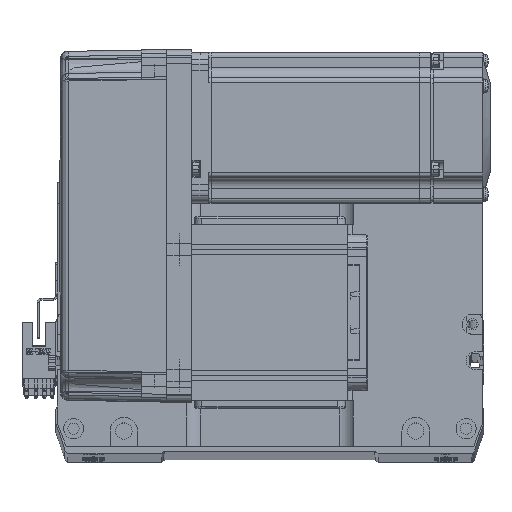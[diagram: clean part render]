
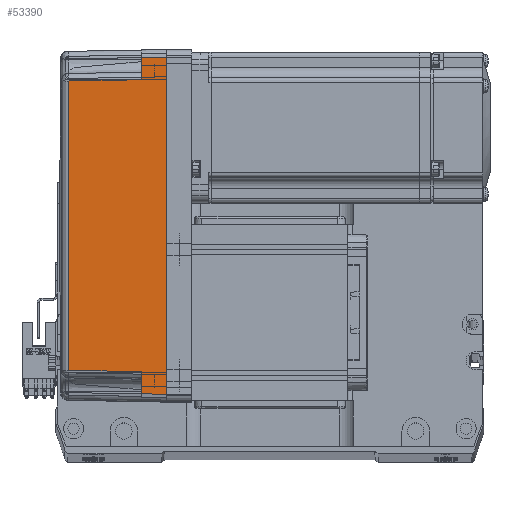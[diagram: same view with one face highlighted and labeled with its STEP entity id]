
A CAD part, top view. The second image highlights one B-rep face of the part: STEP entity #53390.
In plain terms, the highlighted planar face has unit normal (-0.018, 0, 1) as drawn and (0, 1, 0.017) by its records, which use the part's own axes.
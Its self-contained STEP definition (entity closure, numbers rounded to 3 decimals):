
#125 = CARTESIAN_POINT ( 'NONE',  ( 67., 36., 0. ) ) ;
#207 = PLANE ( 'NONE',  #51151 ) ;
#442 = DIRECTION ( 'NONE',  ( 0., 1., 0.017 ) ) ;
#577 = VECTOR ( 'NONE', #25963, 1000. ) ;
#2304 = VECTOR ( 'NONE', #61262, 1000. ) ;
#2434 = EDGE_CURVE ( 'NONE', #63216, #66868, #48696, .T. ) ;
#3764 = CARTESIAN_POINT ( 'NONE',  ( 67.001, 36.001, -0.052 ) ) ;
#4817 = ORIENTED_EDGE ( 'NONE', *, *, #38233, .T. ) ;
#5780 = VERTEX_POINT ( 'NONE', #24749 ) ;
#5852 = CARTESIAN_POINT ( 'NONE',  ( 57.495, 35.32, 38.985 ) ) ;
#6424 = EDGE_CURVE ( 'NONE', #60235, #41976, #44939, .T. ) ;
#8521 = DIRECTION ( 'NONE',  ( 0.017, -0.017, 1. ) ) ;
#8725 = DIRECTION ( 'NONE',  ( 1., 0., 0. ) ) ;
#8871 = CARTESIAN_POINT ( 'NONE',  ( 70., 35.825, 10. ) ) ;
#9973 = CARTESIAN_POINT ( 'NONE',  ( 70., 36., 0. ) ) ;
#11325 = EDGE_CURVE ( 'NONE', #5780, #51485, #31398, .T. ) ;
#14549 = ORIENTED_EDGE ( 'NONE', *, *, #51327, .F. ) ;
#16886 = VECTOR ( 'NONE', #52435, 1000. ) ;
#17546 = LINE ( 'NONE', #44587, #55498 ) ;
#17732 = VECTOR ( 'NONE', #60147, 1000. ) ;
#20397 = CARTESIAN_POINT ( 'NONE',  ( -57.495, 35.32, 38.985 ) ) ;
#21199 = FACE_OUTER_BOUND ( 'NONE', #44176, .T. ) ;
#21259 = VECTOR ( 'NONE', #61587, 1000. ) ;
#24118 = CARTESIAN_POINT ( 'NONE',  ( -58., 35.825, 10. ) ) ;
#24256 = CARTESIAN_POINT ( 'NONE',  ( 57.495, 35.32, 38.985 ) ) ;
#24749 = CARTESIAN_POINT ( 'NONE',  ( -66.826, 35.825, 10. ) ) ;
#25474 = ORIENTED_EDGE ( 'NONE', *, *, #2434, .F. ) ;
#25963 = DIRECTION ( 'NONE',  ( 0.017, 0.017, -1. ) ) ;
#27791 = EDGE_CURVE ( 'NONE', #48884, #66868, #40306, .T. ) ;
#28551 = CARTESIAN_POINT ( 'NONE',  ( -67., 36., 0. ) ) ;
#30374 = CARTESIAN_POINT ( 'NONE',  ( 58., 35.825, 10. ) ) ;
#31398 = LINE ( 'NONE', #31915, #16886 ) ;
#31547 = CARTESIAN_POINT ( 'NONE',  ( -67., 36., 0. ) ) ;
#31915 = CARTESIAN_POINT ( 'NONE',  ( 70., 35.825, 10. ) ) ;
#35475 = LINE ( 'NONE', #28551, #17732 ) ;
#35697 = DIRECTION ( 'NONE',  ( 0., -0.017, 1. ) ) ;
#36359 = EDGE_CURVE ( 'NONE', #51485, #60235, #50951, .T. ) ;
#38233 = EDGE_CURVE ( 'NONE', #45229, #5780, #35475, .T. ) ;
#38959 = CARTESIAN_POINT ( 'NONE',  ( 57.495, 35.32, 38.985 ) ) ;
#40306 = LINE ( 'NONE', #8871, #2304 ) ;
#40998 = CARTESIAN_POINT ( 'NONE',  ( -58., 35.825, 10. ) ) ;
#41976 = VERTEX_POINT ( 'NONE', #38959 ) ;
#44176 = EDGE_LOOP ( 'NONE', ( #4817, #57903, #50876, #47103, #66110, #46050, #25474, #14549 ) ) ;
#44537 = CARTESIAN_POINT ( 'NONE',  ( -19.165, 35.316, 39.181 ) ) ;
#44587 = CARTESIAN_POINT ( 'NONE',  ( 0., 36., 0. ) ) ;
#44764 = CARTESIAN_POINT ( 'NONE',  ( -57.495, 35.32, 38.985 ) ) ;
#44939 = B_SPLINE_CURVE_WITH_KNOTS ( 'NONE', 3,
 ( #44764, #44537, #55583, #24256 ),
 .UNSPECIFIED., .F., .F.,
 ( 4, 4 ),
 ( 0., 1. ),
 .UNSPECIFIED. ) ;
#45229 = VERTEX_POINT ( 'NONE', #31547 ) ;
#46050 = ORIENTED_EDGE ( 'NONE', *, *, #27791, .T. ) ;
#47103 = ORIENTED_EDGE ( 'NONE', *, *, #6424, .T. ) ;
#48696 = LINE ( 'NONE', #3764, #21259 ) ;
#48884 = VERTEX_POINT ( 'NONE', #30374 ) ;
#50439 = EDGE_CURVE ( 'NONE', #41976, #48884, #55540, .T. ) ;
#50876 = ORIENTED_EDGE ( 'NONE', *, *, #36359, .T. ) ;
#50951 = LINE ( 'NONE', #24118, #65486 ) ;
#51151 = AXIS2_PLACEMENT_3D ( 'NONE', #9973, #442, #35697 ) ;
#51327 = EDGE_CURVE ( 'NONE', #45229, #63216, #17546, .T. ) ;
#51485 = VERTEX_POINT ( 'NONE', #40998 ) ;
#52435 = DIRECTION ( 'NONE',  ( 1., 0., 0. ) ) ;
#53390 = ADVANCED_FACE ( 'NONE', ( #21199 ), #207, .T. ) ;
#53689 = CARTESIAN_POINT ( 'NONE',  ( 66.826, 35.825, 10. ) ) ;
#55498 = VECTOR ( 'NONE', #8725, 1000. ) ;
#55540 = LINE ( 'NONE', #5852, #577 ) ;
#55583 = CARTESIAN_POINT ( 'NONE',  ( 19.165, 35.316, 39.181 ) ) ;
#57903 = ORIENTED_EDGE ( 'NONE', *, *, #11325, .T. ) ;
#60147 = DIRECTION ( 'NONE',  ( 0.017, -0.017, 1. ) ) ;
#60235 = VERTEX_POINT ( 'NONE', #20397 ) ;
#61262 = DIRECTION ( 'NONE',  ( 1., 0., 0. ) ) ;
#61587 = DIRECTION ( 'NONE',  ( -0.017, -0.017, 1. ) ) ;
#63216 = VERTEX_POINT ( 'NONE', #125 ) ;
#65486 = VECTOR ( 'NONE', #8521, 1000. ) ;
#66110 = ORIENTED_EDGE ( 'NONE', *, *, #50439, .T. ) ;
#66868 = VERTEX_POINT ( 'NONE', #53689 ) ;
